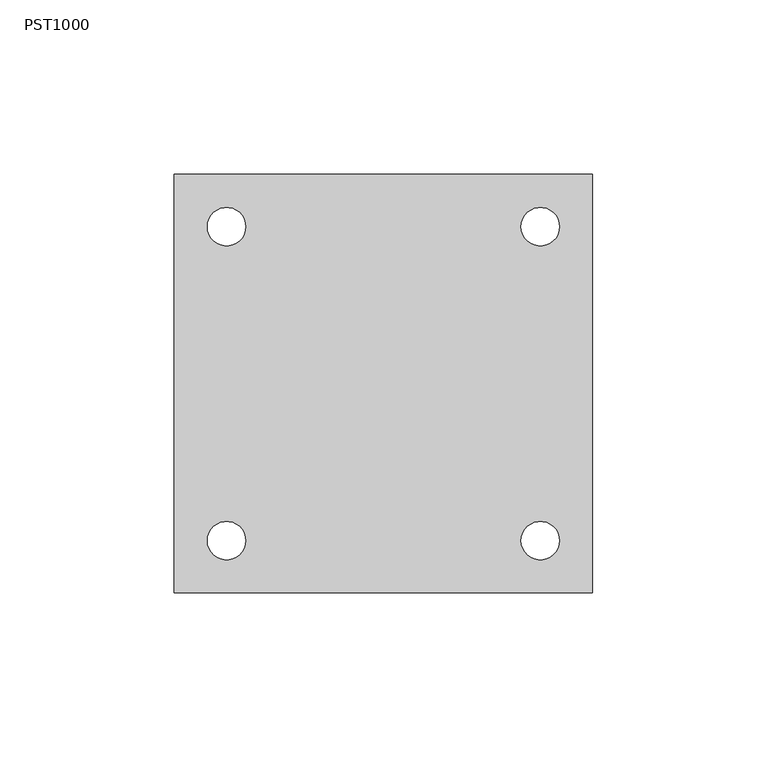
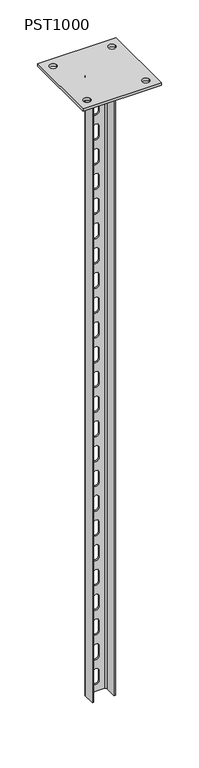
"""IFC4 building model written with IfcOpenShell, lengths in millimetres: proxy geometry, КМ Профиль_Стойка потолочная облегчённая PST : PST1000."""

from ifc_helpers import new_model, si_unit, point, frame, frame_2d, origin, place, context, project, spatial, polyline, circle_curve, trimmed, segment, composite_curve, outline, extrude, source, transform, mapped, element, save
from ifc_brep_helpers import plane_surface, cylinder_surface, revolved_surface, advanced_brep


def pst1000_420f6fb0(model_context):
    return source(origin(), model_context, "Body", "SolidModel", [
        advanced_brep(
        [(17.5, -11.5, -4.0), (17.5, 7.5, -4.0), (13.5, 11.5, -4.0), (-13.5, 11.5, -4.0), (-17.5, 7.5, -4.0), (-17.5, -11.5, -4.0), (-15.5, -11.5, -4.0), (-15.5, 7.5, -4.0), (-13.5, 9.5, -4.0), (13.5, 9.5, -4.0), (15.5, 7.5, -4.0), (15.5, -11.5, -4.0), (17.5, 7.5, -1004.0), (17.5, -11.5, -1004.0), (15.5, -11.5, -1004.0), (15.5, 7.5, -1004.0), (13.5, 9.5, -1004.0), (-13.5, 9.5, -1004.0), (-15.5, 7.5, -1004.0), (-15.5, -11.5, -1004.0), (-17.5, -11.5, -1004.0), (-17.5, 7.5, -1004.0), (-13.5, 11.5, -1004.0), (13.5, 11.5, -1004.0), (-5.0, 11.5, -53.0), (-5.0, 11.5, -68.0), (5.0, 11.5, -68.0), (5.0, 11.5, -53.0), (-5.0, 11.5, -93.0), (-5.0, 11.5, -108.0), (5.0, 11.5, -108.0), (5.0, 11.5, -93.0), (-5.0, 11.5, -133.0), (-5.0, 11.5, -148.0), (5.0, 11.5, -148.0), (5.0, 11.5, -133.0), (-5.0, 11.5, -173.0), (-5.0, 11.5, -188.0), (5.0, 11.5, -188.0), (5.0, 11.5, -173.0), (-5.0, 11.5, -213.0), (-5.0, 11.5, -228.0), (5.0, 11.5, -228.0), (5.0, 11.5, -213.0), (-5.0, 11.5, -13.0), (-5.0, 11.5, -28.0), (5.0, 11.5, -28.0), (5.0, 11.5, -13.0), (-5.0, 11.5, -253.0), (-5.0, 11.5, -268.0), (5.0, 11.5, -268.0), (5.0, 11.5, -253.0), (-5.0, 11.5, -293.0), (-5.0, 11.5, -308.0), (5.0, 11.5, -308.0), (5.0, 11.5, -293.0), (-5.0, 11.5, -333.0), (-5.0, 11.5, -348.0), (5.0, 11.5, -348.0), (5.0, 11.5, -333.0), (-5.0, 11.5, -373.0), (-5.0, 11.5, -388.0), (5.0, 11.5, -388.0), (5.0, 11.5, -373.0), (-5.0, 11.5, -413.0), (-5.0, 11.5, -428.0), (5.0, 11.5, -428.0), (5.0, 11.5, -413.0), (-5.0, 11.5, -453.0), (-5.0, 11.5, -468.0), (5.0, 11.5, -468.0), (5.0, 11.5, -453.0), (-5.0, 11.5, -493.0), (-5.0, 11.5, -508.0), (5.0, 11.5, -508.0), (5.0, 11.5, -493.0), (-5.0, 11.5, -533.0), (-5.0, 11.5, -548.0), (5.0, 11.5, -548.0), (5.0, 11.5, -533.0), (-5.0, 11.5, -573.0), (-5.0, 11.5, -588.0), (5.0, 11.5, -588.0), (5.0, 11.5, -573.0), (-5.0, 11.5, -613.0), (-5.0, 11.5, -628.0), (5.0, 11.5, -628.0), (5.0, 11.5, -613.0), (-5.0, 11.5, -653.0), (-5.0, 11.5, -668.0), (5.0, 11.5, -668.0), (5.0, 11.5, -653.0), (-5.0, 11.5, -693.0), (-5.0, 11.5, -708.0), (5.0, 11.5, -708.0), (5.0, 11.5, -693.0), (-5.0, 11.5, -733.0), (-5.0, 11.5, -748.0), (5.0, 11.5, -748.0), (5.0, 11.5, -733.0), (-5.0, 11.5, -773.0), (-5.0, 11.5, -788.0), (5.0, 11.5, -788.0), (5.0, 11.5, -773.0), (-5.0, 11.5, -813.0), (-5.0, 11.5, -828.0), (5.0, 11.5, -828.0), (5.0, 11.5, -813.0), (-5.0, 11.5, -853.0), (-5.0, 11.5, -868.0), (5.0, 11.5, -868.0), (5.0, 11.5, -853.0), (-5.0, 11.5, -893.0), (-5.0, 11.5, -908.0), (5.0, 11.5, -908.0), (5.0, 11.5, -893.0), (-5.0, 11.5, -933.0), (-5.0, 11.5, -948.0), (5.0, 11.5, -948.0), (5.0, 11.5, -933.0), (-5.0, 11.5, -973.0), (-5.0, 11.5, -988.0), (5.0, 11.5, -988.0), (5.0, 11.5, -973.0), (-5.0, 9.5, -68.0), (-5.0, 9.5, -53.0), (5.0, 9.5, -53.0), (5.0, 9.5, -68.0), (-5.0, 9.5, -108.0), (-5.0, 9.5, -93.0), (5.0, 9.5, -93.0), (5.0, 9.5, -108.0), (-5.0, 9.5, -148.0), (-5.0, 9.5, -133.0), (5.0, 9.5, -133.0), (5.0, 9.5, -148.0), (-5.0, 9.5, -188.0), (-5.0, 9.5, -173.0), (5.0, 9.5, -173.0), (5.0, 9.5, -188.0), (-5.0, 9.5, -228.0), (-5.0, 9.5, -213.0), (5.0, 9.5, -213.0), (5.0, 9.5, -228.0), (-5.0, 9.5, -28.0), (-5.0, 9.5, -13.0), (5.0, 9.5, -13.0), (5.0, 9.5, -28.0), (-5.0, 9.5, -268.0), (-5.0, 9.5, -253.0), (5.0, 9.5, -253.0), (5.0, 9.5, -268.0), (-5.0, 9.5, -308.0), (-5.0, 9.5, -293.0), (5.0, 9.5, -293.0), (5.0, 9.5, -308.0), (-5.0, 9.5, -348.0), (-5.0, 9.5, -333.0), (5.0, 9.5, -333.0), (5.0, 9.5, -348.0), (-5.0, 9.5, -388.0), (-5.0, 9.5, -373.0), (5.0, 9.5, -373.0), (5.0, 9.5, -388.0), (-5.0, 9.5, -428.0), (-5.0, 9.5, -413.0), (5.0, 9.5, -413.0), (5.0, 9.5, -428.0), (-5.0, 9.5, -468.0), (-5.0, 9.5, -453.0), (5.0, 9.5, -453.0), (5.0, 9.5, -468.0), (-5.0, 9.5, -508.0), (-5.0, 9.5, -493.0), (5.0, 9.5, -493.0), (5.0, 9.5, -508.0), (-5.0, 9.5, -548.0), (-5.0, 9.5, -533.0), (5.0, 9.5, -533.0), (5.0, 9.5, -548.0), (-5.0, 9.5, -588.0), (-5.0, 9.5, -573.0), (5.0, 9.5, -573.0), (5.0, 9.5, -588.0), (-5.0, 9.5, -628.0), (-5.0, 9.5, -613.0), (5.0, 9.5, -613.0), (5.0, 9.5, -628.0), (-5.0, 9.5, -668.0), (-5.0, 9.5, -653.0), (5.0, 9.5, -653.0), (5.0, 9.5, -668.0), (-5.0, 9.5, -708.0), (-5.0, 9.5, -693.0), (5.0, 9.5, -693.0), (5.0, 9.5, -708.0), (-5.0, 9.5, -748.0), (-5.0, 9.5, -733.0), (5.0, 9.5, -733.0), (5.0, 9.5, -748.0), (-5.0, 9.5, -788.0), (-5.0, 9.5, -773.0), (5.0, 9.5, -773.0), (5.0, 9.5, -788.0), (-5.0, 9.5, -828.0), (-5.0, 9.5, -813.0), (5.0, 9.5, -813.0), (5.0, 9.5, -828.0), (-5.0, 9.5, -868.0), (-5.0, 9.5, -853.0), (5.0, 9.5, -853.0), (5.0, 9.5, -868.0), (-5.0, 9.5, -908.0), (-5.0, 9.5, -893.0), (5.0, 9.5, -893.0), (5.0, 9.5, -908.0), (-5.0, 9.5, -948.0), (-5.0, 9.5, -933.0), (5.0, 9.5, -933.0), (5.0, 9.5, -948.0), (-5.0, 9.5, -988.0), (-5.0, 9.5, -973.0), (5.0, 9.5, -973.0), (5.0, 9.5, -988.0)],
        [
            (0, 1),
            (1, 2, circle_curve(frame((13.5, 7.5, -4.0), z_axis=(0.0, 0.0, 1.0), x_axis=(1.0, 0.0, 0.0)), 4.0)),
            (2, 3),
            (3, 4, circle_curve(frame((-13.5, 7.5, -4.0), z_axis=(0.0, 0.0, 1.0), x_axis=(1.0, 0.0, 0.0)), 4.0)),
            (4, 5),
            (5, 6),
            (6, 7),
            (7, 8, circle_curve(frame((-13.5, 7.5, -4.0), z_axis=(0.0, 0.0, -1.0), x_axis=(1.0, 0.0, 0.0)), 2.0)),
            (8, 9),
            (9, 10, circle_curve(frame((13.5, 7.5, -4.0), z_axis=(0.0, 0.0, -1.0), x_axis=(1.0, 0.0, 0.0)), 2.0)),
            (10, 11),
            (11, 0),
            (12, 13),
            (13, 14),
            (14, 15),
            (15, 16, circle_curve(frame((13.5, 7.5, -1004.0), z_axis=(0.0, 0.0, 1.0), x_axis=(1.0, 0.0, 0.0)), 2.0)),
            (16, 17),
            (17, 18, circle_curve(frame((-13.5, 7.5, -1004.0), z_axis=(0.0, 0.0, 1.0), x_axis=(1.0, 0.0, 0.0)), 2.0)),
            (18, 19),
            (19, 20),
            (20, 21),
            (21, 22, circle_curve(frame((-13.5, 7.5, -1004.0), z_axis=(0.0, 0.0, -1.0), x_axis=(1.0, 0.0, 0.0)), 4.0)),
            (22, 23),
            (23, 12, circle_curve(frame((13.5, 7.5, -1004.0), z_axis=(0.0, 0.0, -1.0), x_axis=(1.0, 0.0, 0.0)), 4.0)),
            (0, 13),
            (12, 1),
            (23, 2),
            (22, 3),
            (24, 25),
            (25, 26, circle_curve(frame((0.0, 11.5, -68.0), z_axis=(0.0, -1.0, 0.0), x_axis=(0.0, 0.0, -1.0)), 5.0)),
            (26, 27),
            (27, 24, circle_curve(frame((0.0, 11.5, -53.0), z_axis=(0.0, -1.0, 0.0), x_axis=(0.0, 0.0, -1.0)), 5.0)),
            (28, 29),
            (29, 30, circle_curve(frame((0.0, 11.5, -108.0), z_axis=(0.0, -1.0, 0.0), x_axis=(0.0, 0.0, -1.0)), 5.0)),
            (30, 31),
            (31, 28, circle_curve(frame((0.0, 11.5, -93.0), z_axis=(0.0, -1.0, 0.0), x_axis=(0.0, 0.0, -1.0)), 5.0)),
            (32, 33),
            (33, 34, circle_curve(frame((0.0, 11.5, -148.0), z_axis=(0.0, -1.0, 0.0), x_axis=(0.0, 0.0, -1.0)), 5.0)),
            (34, 35),
            (35, 32, circle_curve(frame((0.0, 11.5, -133.0), z_axis=(0.0, -1.0, 0.0), x_axis=(0.0, 0.0, -1.0)), 5.0)),
            (36, 37),
            (37, 38, circle_curve(frame((0.0, 11.5, -188.0), z_axis=(0.0, -1.0, 0.0), x_axis=(0.0, 0.0, -1.0)), 5.0)),
            (38, 39),
            (39, 36, circle_curve(frame((0.0, 11.5, -173.0), z_axis=(0.0, -1.0, 0.0), x_axis=(0.0, 0.0, -1.0)), 5.0)),
            (40, 41),
            (41, 42, circle_curve(frame((0.0, 11.5, -228.0), z_axis=(0.0, -1.0, 0.0), x_axis=(0.0, 0.0, -1.0)), 5.0)),
            (42, 43),
            (43, 40, circle_curve(frame((0.0, 11.5, -213.0), z_axis=(0.0, -1.0, 0.0), x_axis=(0.0, 0.0, -1.0)), 5.0)),
            (44, 45),
            (45, 46, circle_curve(frame((0.0, 11.5, -28.0), z_axis=(0.0, -1.0, 0.0), x_axis=(0.0, 0.0, -1.0)), 5.0)),
            (46, 47),
            (47, 44, circle_curve(frame((0.0, 11.5, -13.0), z_axis=(0.0, -1.0, 0.0), x_axis=(0.0, 0.0, -1.0)), 5.0)),
            (48, 49),
            (49, 50, circle_curve(frame((0.0, 11.5, -268.0), z_axis=(0.0, -1.0, 0.0), x_axis=(0.0, 0.0, -1.0)), 5.0)),
            (50, 51),
            (51, 48, circle_curve(frame((0.0, 11.5, -253.0), z_axis=(0.0, -1.0, 0.0), x_axis=(0.0, 0.0, -1.0)), 5.0)),
            (52, 53),
            (53, 54, circle_curve(frame((0.0, 11.5, -308.0), z_axis=(0.0, -1.0, 0.0), x_axis=(0.0, 0.0, -1.0)), 5.0)),
            (54, 55),
            (55, 52, circle_curve(frame((0.0, 11.5, -293.0), z_axis=(0.0, -1.0, 0.0), x_axis=(0.0, 0.0, -1.0)), 5.0)),
            (56, 57),
            (57, 58, circle_curve(frame((0.0, 11.5, -348.0), z_axis=(0.0, -1.0, 0.0), x_axis=(0.0, 0.0, -1.0)), 5.0)),
            (58, 59),
            (59, 56, circle_curve(frame((0.0, 11.5, -333.0), z_axis=(0.0, -1.0, 0.0), x_axis=(0.0, 0.0, -1.0)), 5.0)),
            (60, 61),
            (61, 62, circle_curve(frame((0.0, 11.5, -388.0), z_axis=(0.0, -1.0, 0.0), x_axis=(0.0, 0.0, -1.0)), 5.0)),
            (62, 63),
            (63, 60, circle_curve(frame((0.0, 11.5, -373.0), z_axis=(0.0, -1.0, 0.0), x_axis=(0.0, 0.0, -1.0)), 5.0)),
            (64, 65),
            (65, 66, circle_curve(frame((0.0, 11.5, -428.0), z_axis=(0.0, -1.0, 0.0), x_axis=(0.0, 0.0, -1.0)), 5.0)),
            (66, 67),
            (67, 64, circle_curve(frame((0.0, 11.5, -413.0), z_axis=(0.0, -1.0, 0.0), x_axis=(0.0, 0.0, -1.0)), 5.0)),
            (68, 69),
            (69, 70, circle_curve(frame((0.0, 11.5, -468.0), z_axis=(0.0, -1.0, 0.0), x_axis=(0.0, 0.0, -1.0)), 5.0)),
            (70, 71),
            (71, 68, circle_curve(frame((0.0, 11.5, -453.0), z_axis=(0.0, -1.0, 0.0), x_axis=(0.0, 0.0, -1.0)), 5.0)),
            (72, 73),
            (73, 74, circle_curve(frame((0.0, 11.5, -508.0), z_axis=(0.0, -1.0, 0.0), x_axis=(0.0, 0.0, -1.0)), 5.0)),
            (74, 75),
            (75, 72, circle_curve(frame((0.0, 11.5, -493.0), z_axis=(0.0, -1.0, 0.0), x_axis=(0.0, 0.0, -1.0)), 5.0)),
            (76, 77),
            (77, 78, circle_curve(frame((0.0, 11.5, -548.0), z_axis=(0.0, -1.0, 0.0), x_axis=(0.0, 0.0, -1.0)), 5.0)),
            (78, 79),
            (79, 76, circle_curve(frame((0.0, 11.5, -533.0), z_axis=(0.0, -1.0, 0.0), x_axis=(0.0, 0.0, -1.0)), 5.0)),
            (80, 81),
            (81, 82, circle_curve(frame((0.0, 11.5, -588.0), z_axis=(0.0, -1.0, 0.0), x_axis=(0.0, 0.0, -1.0)), 5.0)),
            (82, 83),
            (83, 80, circle_curve(frame((0.0, 11.5, -573.0), z_axis=(0.0, -1.0, 0.0), x_axis=(0.0, 0.0, -1.0)), 5.0)),
            (84, 85),
            (85, 86, circle_curve(frame((0.0, 11.5, -628.0), z_axis=(0.0, -1.0, 0.0), x_axis=(0.0, 0.0, -1.0)), 5.0)),
            (86, 87),
            (87, 84, circle_curve(frame((0.0, 11.5, -613.0), z_axis=(0.0, -1.0, 0.0), x_axis=(0.0, 0.0, -1.0)), 5.0)),
            (88, 89),
            (89, 90, circle_curve(frame((0.0, 11.5, -668.0), z_axis=(0.0, -1.0, 0.0), x_axis=(0.0, 0.0, -1.0)), 5.0)),
            (90, 91),
            (91, 88, circle_curve(frame((0.0, 11.5, -653.0), z_axis=(0.0, -1.0, 0.0), x_axis=(0.0, 0.0, -1.0)), 5.0)),
            (92, 93),
            (93, 94, circle_curve(frame((0.0, 11.5, -708.0), z_axis=(0.0, -1.0, 0.0), x_axis=(0.0, 0.0, -1.0)), 5.0)),
            (94, 95),
            (95, 92, circle_curve(frame((0.0, 11.5, -693.0), z_axis=(0.0, -1.0, 0.0), x_axis=(0.0, 0.0, -1.0)), 5.0)),
            (96, 97),
            (97, 98, circle_curve(frame((0.0, 11.5, -748.0), z_axis=(0.0, -1.0, 0.0), x_axis=(0.0, 0.0, -1.0)), 5.0)),
            (98, 99),
            (99, 96, circle_curve(frame((0.0, 11.5, -733.0), z_axis=(0.0, -1.0, 0.0), x_axis=(0.0, 0.0, -1.0)), 5.0)),
            (100, 101),
            (101, 102, circle_curve(frame((0.0, 11.5, -788.0), z_axis=(0.0, -1.0, 0.0), x_axis=(0.0, 0.0, -1.0)), 5.0)),
            (102, 103),
            (103, 100, circle_curve(frame((0.0, 11.5, -773.0), z_axis=(0.0, -1.0, 0.0), x_axis=(0.0, 0.0, -1.0)), 5.0)),
            (104, 105),
            (105, 106, circle_curve(frame((0.0, 11.5, -828.0), z_axis=(0.0, -1.0, 0.0), x_axis=(0.0, 0.0, -1.0)), 5.0)),
            (106, 107),
            (107, 104, circle_curve(frame((0.0, 11.5, -813.0), z_axis=(0.0, -1.0, 0.0), x_axis=(0.0, 0.0, -1.0)), 5.0)),
            (108, 109),
            (109, 110, circle_curve(frame((0.0, 11.5, -868.0), z_axis=(0.0, -1.0, 0.0), x_axis=(0.0, 0.0, -1.0)), 5.0)),
            (110, 111),
            (111, 108, circle_curve(frame((0.0, 11.5, -853.0), z_axis=(0.0, -1.0, 0.0), x_axis=(0.0, 0.0, -1.0)), 5.0)),
            (112, 113),
            (113, 114, circle_curve(frame((0.0, 11.5, -908.0), z_axis=(0.0, -1.0, 0.0), x_axis=(0.0, 0.0, -1.0)), 5.0)),
            (114, 115),
            (115, 112, circle_curve(frame((0.0, 11.5, -893.0), z_axis=(0.0, -1.0, 0.0), x_axis=(0.0, 0.0, -1.0)), 5.0)),
            (116, 117),
            (117, 118, circle_curve(frame((0.0, 11.5, -948.0), z_axis=(0.0, -1.0, 0.0), x_axis=(0.0, 0.0, -1.0)), 5.0)),
            (118, 119),
            (119, 116, circle_curve(frame((0.0, 11.5, -933.0), z_axis=(0.0, -1.0, 0.0), x_axis=(0.0, 0.0, -1.0)), 5.0)),
            (120, 121),
            (121, 122, circle_curve(frame((0.0, 11.5, -988.0), z_axis=(0.0, -1.0, 0.0), x_axis=(0.0, 0.0, -1.0)), 5.0)),
            (122, 123),
            (123, 120, circle_curve(frame((0.0, 11.5, -973.0), z_axis=(0.0, -1.0, 0.0), x_axis=(0.0, 0.0, -1.0)), 5.0)),
            (21, 4),
            (20, 5),
            (19, 6),
            (18, 7),
            (17, 8),
            (16, 9),
            (124, 125),
            (125, 126, circle_curve(frame((0.0, 9.5, -53.0), z_axis=(0.0, 1.0, 0.0), x_axis=(0.0, 0.0, -1.0)), 5.0)),
            (126, 127),
            (127, 124, circle_curve(frame((0.0, 9.5, -68.0), z_axis=(0.0, 1.0, 0.0), x_axis=(0.0, 0.0, -1.0)), 5.0)),
            (128, 129),
            (129, 130, circle_curve(frame((0.0, 9.5, -93.0), z_axis=(0.0, 1.0, 0.0), x_axis=(0.0, 0.0, -1.0)), 5.0)),
            (130, 131),
            (131, 128, circle_curve(frame((0.0, 9.5, -108.0), z_axis=(0.0, 1.0, 0.0), x_axis=(0.0, 0.0, -1.0)), 5.0)),
            (132, 133),
            (133, 134, circle_curve(frame((0.0, 9.5, -133.0), z_axis=(0.0, 1.0, 0.0), x_axis=(0.0, 0.0, -1.0)), 5.0)),
            (134, 135),
            (135, 132, circle_curve(frame((0.0, 9.5, -148.0), z_axis=(0.0, 1.0, 0.0), x_axis=(0.0, 0.0, -1.0)), 5.0)),
            (136, 137),
            (137, 138, circle_curve(frame((0.0, 9.5, -173.0), z_axis=(0.0, 1.0, 0.0), x_axis=(0.0, 0.0, -1.0)), 5.0)),
            (138, 139),
            (139, 136, circle_curve(frame((0.0, 9.5, -188.0), z_axis=(0.0, 1.0, 0.0), x_axis=(0.0, 0.0, -1.0)), 5.0)),
            (140, 141),
            (141, 142, circle_curve(frame((0.0, 9.5, -213.0), z_axis=(0.0, 1.0, 0.0), x_axis=(0.0, 0.0, -1.0)), 5.0)),
            (142, 143),
            (143, 140, circle_curve(frame((0.0, 9.5, -228.0), z_axis=(0.0, 1.0, 0.0), x_axis=(0.0, 0.0, -1.0)), 5.0)),
            (144, 145),
            (145, 146, circle_curve(frame((0.0, 9.5, -13.0), z_axis=(0.0, 1.0, 0.0), x_axis=(0.0, 0.0, -1.0)), 5.0)),
            (146, 147),
            (147, 144, circle_curve(frame((0.0, 9.5, -28.0), z_axis=(0.0, 1.0, 0.0), x_axis=(0.0, 0.0, -1.0)), 5.0)),
            (148, 149),
            (149, 150, circle_curve(frame((0.0, 9.5, -253.0), z_axis=(0.0, 1.0, 0.0), x_axis=(0.0, 0.0, -1.0)), 5.0)),
            (150, 151),
            (151, 148, circle_curve(frame((0.0, 9.5, -268.0), z_axis=(0.0, 1.0, 0.0), x_axis=(0.0, 0.0, -1.0)), 5.0)),
            (152, 153),
            (153, 154, circle_curve(frame((0.0, 9.5, -293.0), z_axis=(0.0, 1.0, 0.0), x_axis=(0.0, 0.0, -1.0)), 5.0)),
            (154, 155),
            (155, 152, circle_curve(frame((0.0, 9.5, -308.0), z_axis=(0.0, 1.0, 0.0), x_axis=(0.0, 0.0, -1.0)), 5.0)),
            (156, 157),
            (157, 158, circle_curve(frame((0.0, 9.5, -333.0), z_axis=(0.0, 1.0, 0.0), x_axis=(0.0, 0.0, -1.0)), 5.0)),
            (158, 159),
            (159, 156, circle_curve(frame((0.0, 9.5, -348.0), z_axis=(0.0, 1.0, 0.0), x_axis=(0.0, 0.0, -1.0)), 5.0)),
            (160, 161),
            (161, 162, circle_curve(frame((0.0, 9.5, -373.0), z_axis=(0.0, 1.0, 0.0), x_axis=(0.0, 0.0, -1.0)), 5.0)),
            (162, 163),
            (163, 160, circle_curve(frame((0.0, 9.5, -388.0), z_axis=(0.0, 1.0, 0.0), x_axis=(0.0, 0.0, -1.0)), 5.0)),
            (164, 165),
            (165, 166, circle_curve(frame((0.0, 9.5, -413.0), z_axis=(0.0, 1.0, 0.0), x_axis=(0.0, 0.0, -1.0)), 5.0)),
            (166, 167),
            (167, 164, circle_curve(frame((0.0, 9.5, -428.0), z_axis=(0.0, 1.0, 0.0), x_axis=(0.0, 0.0, -1.0)), 5.0)),
            (168, 169),
            (169, 170, circle_curve(frame((0.0, 9.5, -453.0), z_axis=(0.0, 1.0, 0.0), x_axis=(0.0, 0.0, -1.0)), 5.0)),
            (170, 171),
            (171, 168, circle_curve(frame((0.0, 9.5, -468.0), z_axis=(0.0, 1.0, 0.0), x_axis=(0.0, 0.0, -1.0)), 5.0)),
            (172, 173),
            (173, 174, circle_curve(frame((0.0, 9.5, -493.0), z_axis=(0.0, 1.0, 0.0), x_axis=(0.0, 0.0, -1.0)), 5.0)),
            (174, 175),
            (175, 172, circle_curve(frame((0.0, 9.5, -508.0), z_axis=(0.0, 1.0, 0.0), x_axis=(0.0, 0.0, -1.0)), 5.0)),
            (176, 177),
            (177, 178, circle_curve(frame((0.0, 9.5, -533.0), z_axis=(0.0, 1.0, 0.0), x_axis=(0.0, 0.0, -1.0)), 5.0)),
            (178, 179),
            (179, 176, circle_curve(frame((0.0, 9.5, -548.0), z_axis=(0.0, 1.0, 0.0), x_axis=(0.0, 0.0, -1.0)), 5.0)),
            (180, 181),
            (181, 182, circle_curve(frame((0.0, 9.5, -573.0), z_axis=(0.0, 1.0, 0.0), x_axis=(0.0, 0.0, -1.0)), 5.0)),
            (182, 183),
            (183, 180, circle_curve(frame((0.0, 9.5, -588.0), z_axis=(0.0, 1.0, 0.0), x_axis=(0.0, 0.0, -1.0)), 5.0)),
            (184, 185),
            (185, 186, circle_curve(frame((0.0, 9.5, -613.0), z_axis=(0.0, 1.0, 0.0), x_axis=(0.0, 0.0, -1.0)), 5.0)),
            (186, 187),
            (187, 184, circle_curve(frame((0.0, 9.5, -628.0), z_axis=(0.0, 1.0, 0.0), x_axis=(0.0, 0.0, -1.0)), 5.0)),
            (188, 189),
            (189, 190, circle_curve(frame((0.0, 9.5, -653.0), z_axis=(0.0, 1.0, 0.0), x_axis=(0.0, 0.0, -1.0)), 5.0)),
            (190, 191),
            (191, 188, circle_curve(frame((0.0, 9.5, -668.0), z_axis=(0.0, 1.0, 0.0), x_axis=(0.0, 0.0, -1.0)), 5.0)),
            (192, 193),
            (193, 194, circle_curve(frame((0.0, 9.5, -693.0), z_axis=(0.0, 1.0, 0.0), x_axis=(0.0, 0.0, -1.0)), 5.0)),
            (194, 195),
            (195, 192, circle_curve(frame((0.0, 9.5, -708.0), z_axis=(0.0, 1.0, 0.0), x_axis=(0.0, 0.0, -1.0)), 5.0)),
            (196, 197),
            (197, 198, circle_curve(frame((0.0, 9.5, -733.0), z_axis=(0.0, 1.0, 0.0), x_axis=(0.0, 0.0, -1.0)), 5.0)),
            (198, 199),
            (199, 196, circle_curve(frame((0.0, 9.5, -748.0), z_axis=(0.0, 1.0, 0.0), x_axis=(0.0, 0.0, -1.0)), 5.0)),
            (200, 201),
            (201, 202, circle_curve(frame((0.0, 9.5, -773.0), z_axis=(0.0, 1.0, 0.0), x_axis=(0.0, 0.0, -1.0)), 5.0)),
            (202, 203),
            (203, 200, circle_curve(frame((0.0, 9.5, -788.0), z_axis=(0.0, 1.0, 0.0), x_axis=(0.0, 0.0, -1.0)), 5.0)),
            (204, 205),
            (205, 206, circle_curve(frame((0.0, 9.5, -813.0), z_axis=(0.0, 1.0, 0.0), x_axis=(0.0, 0.0, -1.0)), 5.0)),
            (206, 207),
            (207, 204, circle_curve(frame((0.0, 9.5, -828.0), z_axis=(0.0, 1.0, 0.0), x_axis=(0.0, 0.0, -1.0)), 5.0)),
            (208, 209),
            (209, 210, circle_curve(frame((0.0, 9.5, -853.0), z_axis=(0.0, 1.0, 0.0), x_axis=(0.0, 0.0, -1.0)), 5.0)),
            (210, 211),
            (211, 208, circle_curve(frame((0.0, 9.5, -868.0), z_axis=(0.0, 1.0, 0.0), x_axis=(0.0, 0.0, -1.0)), 5.0)),
            (212, 213),
            (213, 214, circle_curve(frame((0.0, 9.5, -893.0), z_axis=(0.0, 1.0, 0.0), x_axis=(0.0, 0.0, -1.0)), 5.0)),
            (214, 215),
            (215, 212, circle_curve(frame((0.0, 9.5, -908.0), z_axis=(0.0, 1.0, 0.0), x_axis=(0.0, 0.0, -1.0)), 5.0)),
            (216, 217),
            (217, 218, circle_curve(frame((0.0, 9.5, -933.0), z_axis=(0.0, 1.0, 0.0), x_axis=(0.0, 0.0, -1.0)), 5.0)),
            (218, 219),
            (219, 216, circle_curve(frame((0.0, 9.5, -948.0), z_axis=(0.0, 1.0, 0.0), x_axis=(0.0, 0.0, -1.0)), 5.0)),
            (220, 221),
            (221, 222, circle_curve(frame((0.0, 9.5, -973.0), z_axis=(0.0, 1.0, 0.0), x_axis=(0.0, 0.0, -1.0)), 5.0)),
            (222, 223),
            (223, 220, circle_curve(frame((0.0, 9.5, -988.0), z_axis=(0.0, 1.0, 0.0), x_axis=(0.0, 0.0, -1.0)), 5.0)),
            (15, 10),
            (14, 11),
            (24, 125),
            (124, 25),
            (27, 126),
            (26, 127),
            (28, 129),
            (128, 29),
            (31, 130),
            (30, 131),
            (32, 133),
            (132, 33),
            (35, 134),
            (34, 135),
            (36, 137),
            (136, 37),
            (39, 138),
            (38, 139),
            (40, 141),
            (140, 41),
            (43, 142),
            (42, 143),
            (44, 145),
            (144, 45),
            (47, 146),
            (46, 147),
            (48, 149),
            (148, 49),
            (51, 150),
            (50, 151),
            (52, 153),
            (152, 53),
            (55, 154),
            (54, 155),
            (56, 157),
            (156, 57),
            (59, 158),
            (58, 159),
            (60, 161),
            (160, 61),
            (63, 162),
            (62, 163),
            (64, 165),
            (164, 65),
            (67, 166),
            (66, 167),
            (68, 169),
            (168, 69),
            (71, 170),
            (70, 171),
            (72, 173),
            (172, 73),
            (75, 174),
            (74, 175),
            (76, 177),
            (176, 77),
            (79, 178),
            (78, 179),
            (80, 181),
            (180, 81),
            (83, 182),
            (82, 183),
            (84, 185),
            (184, 85),
            (87, 186),
            (86, 187),
            (88, 189),
            (188, 89),
            (91, 190),
            (90, 191),
            (92, 193),
            (192, 93),
            (95, 194),
            (94, 195),
            (96, 197),
            (196, 97),
            (99, 198),
            (98, 199),
            (100, 201),
            (200, 101),
            (103, 202),
            (102, 203),
            (104, 205),
            (204, 105),
            (107, 206),
            (106, 207),
            (108, 209),
            (208, 109),
            (111, 210),
            (110, 211),
            (112, 213),
            (212, 113),
            (115, 214),
            (114, 215),
            (116, 217),
            (216, 117),
            (119, 218),
            (118, 219),
            (120, 221),
            (220, 121),
            (123, 222),
            (122, 223),
        ],
        [
            plane_surface(frame((17.5, 70.8587358, -4.0), z_axis=(0.0, 0.0, 1.0), x_axis=(0.0, 1.0, 0.0))),
            plane_surface(frame((17.5, 70.8587358, -1004.0), z_axis=(0.0, 0.0, -1.0), x_axis=(0.0, -1.0, 0.0))),
            plane_surface(frame((17.5, -11.5, -4.0), z_axis=(1.0, 0.0, 0.0), x_axis=(0.0, 0.0, -1.0))),
            cylinder_surface(frame((13.5, 7.5, -1004.0), z_axis=(0.0, 0.0, 1.0), x_axis=(1.0, 0.0, 0.0)), 4.0),
            plane_surface(frame((13.5, 11.5, -4.0), z_axis=(0.0, 1.0, 0.0), x_axis=(0.0, 0.0, -1.0))),
            cylinder_surface(frame((-13.5, 7.5, -1004.0), z_axis=(0.0, 0.0, 1.0), x_axis=(1.0, 0.0, 0.0)), 4.0),
            plane_surface(frame((-17.5, 7.5, -4.0), z_axis=(-1.0, 0.0, 0.0), x_axis=(0.0, 0.0, -1.0))),
            plane_surface(frame((-17.5, -11.5, -4.0), z_axis=(0.0, -1.0, 0.0), x_axis=(0.0, 0.0, -1.0))),
            plane_surface(frame((-15.5, -11.5, -4.0), z_axis=(1.0, 0.0, 0.0), x_axis=(0.0, 0.0, -1.0))),
            revolved_surface(polyline([(-11.5, 7.5, -1004.0), (-11.5, 7.5, -4.0)]), (-13.5, 7.5, -1004.0), (0.0, 0.0, -1.0)),
            plane_surface(frame((-13.5, 9.5, -4.0), z_axis=(0.0, -1.0, 0.0), x_axis=(0.0, 0.0, -1.0))),
            revolved_surface(polyline([(15.5, 7.5, -1004.0), (15.5, 7.5, -4.0)]), (13.5, 7.5, -1004.0), (0.0, 0.0, -1.0)),
            plane_surface(frame((15.5, 7.5, -4.0), z_axis=(-1.0, 0.0, 0.0), x_axis=(0.0, 0.0, -1.0))),
            plane_surface(frame((15.5, -11.5, -4.0), z_axis=(0.0, -1.0, 0.0), x_axis=(0.0, 0.0, -1.0))),
            plane_surface(frame((-5.0, 11.5, -68.0), z_axis=(1.0, 0.0, 0.0), x_axis=(0.0, -1.0, 0.0))),
            revolved_surface(polyline([(0.0, 11.5, -58.0), (0.0, 9.5, -58.0)]), (0.0, 9.5, -53.0), (0.0, 1.0, 0.0)),
            plane_surface(frame((5.0, 11.5, -53.0), z_axis=(-1.0, 0.0, 0.0), x_axis=(0.0, -1.0, 0.0))),
            revolved_surface(polyline([(0.0, 11.5, -73.0), (0.0, 9.5, -73.0)]), (0.0, 9.5, -68.0), (0.0, 1.0, 0.0)),
            plane_surface(frame((-5.0, 11.5, -108.0), z_axis=(1.0, 0.0, 0.0), x_axis=(0.0, -1.0, 0.0))),
            revolved_surface(polyline([(0.0, 11.5, -98.0), (0.0, 9.5, -98.0)]), (0.0, 9.5, -93.0), (0.0, 1.0, 0.0)),
            plane_surface(frame((5.0, 11.5, -93.0), z_axis=(-1.0, 0.0, 0.0), x_axis=(0.0, -1.0, 0.0))),
            revolved_surface(polyline([(0.0, 11.5, -113.0), (0.0, 9.5, -113.0)]), (0.0, 9.5, -108.0), (0.0, 1.0, 0.0)),
            plane_surface(frame((-5.0, 11.5, -148.0), z_axis=(1.0, 0.0, 0.0), x_axis=(0.0, -1.0, 0.0))),
            revolved_surface(polyline([(0.0, 11.5, -138.0), (0.0, 9.5, -138.0)]), (0.0, 9.5, -133.0), (0.0, 1.0, 0.0)),
            plane_surface(frame((5.0, 11.5, -133.0), z_axis=(-1.0, 0.0, 0.0), x_axis=(0.0, -1.0, 0.0))),
            revolved_surface(polyline([(0.0, 11.5, -153.0), (0.0, 9.5, -153.0)]), (0.0, 9.5, -148.0), (0.0, 1.0, 0.0)),
            plane_surface(frame((-5.0, 11.5, -188.0), z_axis=(1.0, 0.0, 0.0), x_axis=(0.0, -1.0, 0.0))),
            revolved_surface(polyline([(0.0, 11.5, -178.0), (0.0, 9.5, -178.0)]), (0.0, 9.5, -173.0), (0.0, 1.0, 0.0)),
            plane_surface(frame((5.0, 11.5, -173.0), z_axis=(-1.0, 0.0, 0.0), x_axis=(0.0, -1.0, 0.0))),
            revolved_surface(polyline([(0.0, 11.5, -193.0), (0.0, 9.5, -193.0)]), (0.0, 9.5, -188.0), (0.0, 1.0, 0.0)),
            plane_surface(frame((-5.0, 11.5, -228.0), z_axis=(1.0, 0.0, 0.0), x_axis=(0.0, -1.0, 0.0))),
            revolved_surface(polyline([(0.0, 11.5, -218.0), (0.0, 9.5, -218.0)]), (0.0, 9.5, -213.0), (0.0, 1.0, 0.0)),
            plane_surface(frame((5.0, 11.5, -213.0), z_axis=(-1.0, 0.0, 0.0), x_axis=(0.0, -1.0, 0.0))),
            revolved_surface(polyline([(0.0, 11.5, -233.0), (0.0, 9.5, -233.0)]), (0.0, 9.5, -228.0), (0.0, 1.0, 0.0)),
            plane_surface(frame((-5.0, 11.5, -28.0), z_axis=(1.0, 0.0, 0.0), x_axis=(0.0, -1.0, 0.0))),
            revolved_surface(polyline([(0.0, 11.5, -18.0), (0.0, 9.5, -18.0)]), (0.0, 9.5, -13.0), (0.0, 1.0, 0.0)),
            plane_surface(frame((5.0, 11.5, -13.0), z_axis=(-1.0, 0.0, 0.0), x_axis=(0.0, -1.0, 0.0))),
            revolved_surface(polyline([(0.0, 11.5, -33.0), (0.0, 9.5, -33.0)]), (0.0, 9.5, -28.0), (0.0, 1.0, 0.0)),
            plane_surface(frame((-5.0, 11.5, -268.0), z_axis=(1.0, 0.0, 0.0), x_axis=(0.0, -1.0, 0.0))),
            revolved_surface(polyline([(0.0, 11.5, -258.0), (0.0, 9.5, -258.0)]), (0.0, 9.5, -253.0), (0.0, 1.0, 0.0)),
            plane_surface(frame((5.0, 11.5, -253.0), z_axis=(-1.0, 0.0, 0.0), x_axis=(0.0, -1.0, 0.0))),
            revolved_surface(polyline([(0.0, 11.5, -273.0), (0.0, 9.5, -273.0)]), (0.0, 9.5, -268.0), (0.0, 1.0, 0.0)),
            plane_surface(frame((-5.0, 11.5, -308.0), z_axis=(1.0, 0.0, 0.0), x_axis=(0.0, -1.0, 0.0))),
            revolved_surface(polyline([(0.0, 11.5, -298.0), (0.0, 9.5, -298.0)]), (0.0, 9.5, -293.0), (0.0, 1.0, 0.0)),
            plane_surface(frame((5.0, 11.5, -293.0), z_axis=(-1.0, 0.0, 0.0), x_axis=(0.0, -1.0, 0.0))),
            revolved_surface(polyline([(0.0, 11.5, -313.0), (0.0, 9.5, -313.0)]), (0.0, 9.5, -308.0), (0.0, 1.0, 0.0)),
            plane_surface(frame((-5.0, 11.5, -348.0), z_axis=(1.0, 0.0, 0.0), x_axis=(0.0, -1.0, 0.0))),
            revolved_surface(polyline([(0.0, 11.5, -338.0), (0.0, 9.5, -338.0)]), (0.0, 9.5, -333.0), (0.0, 1.0, 0.0)),
            plane_surface(frame((5.0, 11.5, -333.0), z_axis=(-1.0, 0.0, 0.0), x_axis=(0.0, -1.0, 0.0))),
            revolved_surface(polyline([(0.0, 11.5, -353.0), (0.0, 9.5, -353.0)]), (0.0, 9.5, -348.0), (0.0, 1.0, 0.0)),
            plane_surface(frame((-5.0, 11.5, -388.0), z_axis=(1.0, 0.0, 0.0), x_axis=(0.0, -1.0, 0.0))),
            revolved_surface(polyline([(0.0, 11.5, -378.0), (0.0, 9.5, -378.0)]), (0.0, 9.5, -373.0), (0.0, 1.0, 0.0)),
            plane_surface(frame((5.0, 11.5, -373.0), z_axis=(-1.0, 0.0, 0.0), x_axis=(0.0, -1.0, 0.0))),
            revolved_surface(polyline([(0.0, 11.5, -393.0), (0.0, 9.5, -393.0)]), (0.0, 9.5, -388.0), (0.0, 1.0, 0.0)),
            plane_surface(frame((-5.0, 11.5, -428.0), z_axis=(1.0, 0.0, 0.0), x_axis=(0.0, -1.0, 0.0))),
            revolved_surface(polyline([(0.0, 11.5, -418.0), (0.0, 9.5, -418.0)]), (0.0, 9.5, -413.0), (0.0, 1.0, 0.0)),
            plane_surface(frame((5.0, 11.5, -413.0), z_axis=(-1.0, 0.0, 0.0), x_axis=(0.0, -1.0, 0.0))),
            revolved_surface(polyline([(0.0, 11.5, -433.0), (0.0, 9.5, -433.0)]), (0.0, 9.5, -428.0), (0.0, 1.0, 0.0)),
            plane_surface(frame((-5.0, 11.5, -468.0), z_axis=(1.0, 0.0, 0.0), x_axis=(0.0, -1.0, 0.0))),
            revolved_surface(polyline([(0.0, 11.5, -458.0), (0.0, 9.5, -458.0)]), (0.0, 9.5, -453.0), (0.0, 1.0, 0.0)),
            plane_surface(frame((5.0, 11.5, -453.0), z_axis=(-1.0, 0.0, 0.0), x_axis=(0.0, -1.0, 0.0))),
            revolved_surface(polyline([(0.0, 11.5, -473.0), (0.0, 9.5, -473.0)]), (0.0, 9.5, -468.0), (0.0, 1.0, 0.0)),
            plane_surface(frame((-5.0, 11.5, -508.0), z_axis=(1.0, 0.0, 0.0), x_axis=(0.0, -1.0, 0.0))),
            revolved_surface(polyline([(0.0, 11.5, -498.0), (0.0, 9.5, -498.0)]), (0.0, 9.5, -493.0), (0.0, 1.0, 0.0)),
            plane_surface(frame((5.0, 11.5, -493.0), z_axis=(-1.0, 0.0, 0.0), x_axis=(0.0, -1.0, 0.0))),
            revolved_surface(polyline([(0.0, 11.5, -513.0), (0.0, 9.5, -513.0)]), (0.0, 9.5, -508.0), (0.0, 1.0, 0.0)),
            plane_surface(frame((-5.0, 11.5, -548.0), z_axis=(1.0, 0.0, 0.0), x_axis=(0.0, -1.0, 0.0))),
            revolved_surface(polyline([(0.0, 11.5, -538.0), (0.0, 9.5, -538.0)]), (0.0, 9.5, -533.0), (0.0, 1.0, 0.0)),
            plane_surface(frame((5.0, 11.5, -533.0), z_axis=(-1.0, 0.0, 0.0), x_axis=(0.0, -1.0, 0.0))),
            revolved_surface(polyline([(0.0, 11.5, -553.0), (0.0, 9.5, -553.0)]), (0.0, 9.5, -548.0), (0.0, 1.0, 0.0)),
            plane_surface(frame((-5.0, 11.5, -588.0), z_axis=(1.0, 0.0, 0.0), x_axis=(0.0, -1.0, 0.0))),
            revolved_surface(polyline([(0.0, 11.5, -578.0), (0.0, 9.5, -578.0)]), (0.0, 9.5, -573.0), (0.0, 1.0, 0.0)),
            plane_surface(frame((5.0, 11.5, -573.0), z_axis=(-1.0, 0.0, 0.0), x_axis=(0.0, -1.0, 0.0))),
            revolved_surface(polyline([(0.0, 11.5, -593.0), (0.0, 9.5, -593.0)]), (0.0, 9.5, -588.0), (0.0, 1.0, 0.0)),
            plane_surface(frame((-5.0, 11.5, -628.0), z_axis=(1.0, 0.0, 0.0), x_axis=(0.0, -1.0, 0.0))),
            revolved_surface(polyline([(0.0, 11.5, -618.0), (0.0, 9.5, -618.0)]), (0.0, 9.5, -613.0), (0.0, 1.0, 0.0)),
            plane_surface(frame((5.0, 11.5, -613.0), z_axis=(-1.0, 0.0, 0.0), x_axis=(0.0, -1.0, 0.0))),
            revolved_surface(polyline([(0.0, 11.5, -633.0), (0.0, 9.5, -633.0)]), (0.0, 9.5, -628.0), (0.0, 1.0, 0.0)),
            plane_surface(frame((-5.0, 11.5, -668.0), z_axis=(1.0, 0.0, 0.0), x_axis=(0.0, -1.0, 0.0))),
            revolved_surface(polyline([(0.0, 11.5, -658.0), (0.0, 9.5, -658.0)]), (0.0, 9.5, -653.0), (0.0, 1.0, 0.0)),
            plane_surface(frame((5.0, 11.5, -653.0), z_axis=(-1.0, 0.0, 0.0), x_axis=(0.0, -1.0, 0.0))),
            revolved_surface(polyline([(0.0, 11.5, -673.0), (0.0, 9.5, -673.0)]), (0.0, 9.5, -668.0), (0.0, 1.0, 0.0)),
            plane_surface(frame((-5.0, 11.5, -708.0), z_axis=(1.0, 0.0, 0.0), x_axis=(0.0, -1.0, 0.0))),
            revolved_surface(polyline([(0.0, 11.5, -698.0), (0.0, 9.5, -698.0)]), (0.0, 9.5, -693.0), (0.0, 1.0, 0.0)),
            plane_surface(frame((5.0, 11.5, -693.0), z_axis=(-1.0, 0.0, 0.0), x_axis=(0.0, -1.0, 0.0))),
            revolved_surface(polyline([(0.0, 11.5, -713.0), (0.0, 9.5, -713.0)]), (0.0, 9.5, -708.0), (0.0, 1.0, 0.0)),
            plane_surface(frame((-5.0, 11.5, -748.0), z_axis=(1.0, 0.0, 0.0), x_axis=(0.0, -1.0, 0.0))),
            revolved_surface(polyline([(0.0, 11.5, -738.0), (0.0, 9.5, -738.0)]), (0.0, 9.5, -733.0), (0.0, 1.0, 0.0)),
            plane_surface(frame((5.0, 11.5, -733.0), z_axis=(-1.0, 0.0, 0.0), x_axis=(0.0, -1.0, 0.0))),
            revolved_surface(polyline([(0.0, 11.5, -753.0), (0.0, 9.5, -753.0)]), (0.0, 9.5, -748.0), (0.0, 1.0, 0.0)),
            plane_surface(frame((-5.0, 11.5, -788.0), z_axis=(1.0, 0.0, 0.0), x_axis=(0.0, -1.0, 0.0))),
            revolved_surface(polyline([(0.0, 11.5, -778.0), (0.0, 9.5, -778.0)]), (0.0, 9.5, -773.0), (0.0, 1.0, 0.0)),
            plane_surface(frame((5.0, 11.5, -773.0), z_axis=(-1.0, 0.0, 0.0), x_axis=(0.0, -1.0, 0.0))),
            revolved_surface(polyline([(0.0, 11.5, -793.0), (0.0, 9.5, -793.0)]), (0.0, 9.5, -788.0), (0.0, 1.0, 0.0)),
            plane_surface(frame((-5.0, 11.5, -828.0), z_axis=(1.0, 0.0, 0.0), x_axis=(0.0, -1.0, 0.0))),
            revolved_surface(polyline([(0.0, 11.5, -818.0), (0.0, 9.5, -818.0)]), (0.0, 9.5, -813.0), (0.0, 1.0, 0.0)),
            plane_surface(frame((5.0, 11.5, -813.0), z_axis=(-1.0, 0.0, 0.0), x_axis=(0.0, -1.0, 0.0))),
            revolved_surface(polyline([(0.0, 11.5, -833.0), (0.0, 9.5, -833.0)]), (0.0, 9.5, -828.0), (0.0, 1.0, 0.0)),
            plane_surface(frame((-5.0, 11.5, -868.0), z_axis=(1.0, 0.0, 0.0), x_axis=(0.0, -1.0, 0.0))),
            revolved_surface(polyline([(0.0, 11.5, -858.0), (0.0, 9.5, -858.0)]), (0.0, 9.5, -853.0), (0.0, 1.0, 0.0)),
            plane_surface(frame((5.0, 11.5, -853.0), z_axis=(-1.0, 0.0, 0.0), x_axis=(0.0, -1.0, 0.0))),
            revolved_surface(polyline([(0.0, 11.5, -873.0), (0.0, 9.5, -873.0)]), (0.0, 9.5, -868.0), (0.0, 1.0, 0.0)),
            plane_surface(frame((-5.0, 11.5, -908.0), z_axis=(1.0, 0.0, 0.0), x_axis=(0.0, -1.0, 0.0))),
            revolved_surface(polyline([(0.0, 11.5, -898.0), (0.0, 9.5, -898.0)]), (0.0, 9.5, -893.0), (0.0, 1.0, 0.0)),
            plane_surface(frame((5.0, 11.5, -893.0), z_axis=(-1.0, 0.0, 0.0), x_axis=(0.0, -1.0, 0.0))),
            revolved_surface(polyline([(0.0, 11.5, -913.0), (0.0, 9.5, -913.0)]), (0.0, 9.5, -908.0), (0.0, 1.0, 0.0)),
            plane_surface(frame((-5.0, 11.5, -948.0), z_axis=(1.0, 0.0, 0.0), x_axis=(0.0, -1.0, 0.0))),
            revolved_surface(polyline([(0.0, 11.5, -938.0), (0.0, 9.5, -938.0)]), (0.0, 9.5, -933.0), (0.0, 1.0, 0.0)),
            plane_surface(frame((5.0, 11.5, -933.0), z_axis=(-1.0, 0.0, 0.0), x_axis=(0.0, -1.0, 0.0))),
            revolved_surface(polyline([(0.0, 11.5, -953.0), (0.0, 9.5, -953.0)]), (0.0, 9.5, -948.0), (0.0, 1.0, 0.0)),
            plane_surface(frame((-5.0, 11.5, -988.0), z_axis=(1.0, 0.0, 0.0), x_axis=(0.0, -1.0, 0.0))),
            revolved_surface(polyline([(0.0, 11.5, -978.0), (0.0, 9.5, -978.0)]), (0.0, 9.5, -973.0), (0.0, 1.0, 0.0)),
            plane_surface(frame((5.0, 11.5, -973.0), z_axis=(-1.0, 0.0, 0.0), x_axis=(0.0, -1.0, 0.0))),
            revolved_surface(polyline([(0.0, 11.5, -993.0), (0.0, 9.5, -993.0)]), (0.0, 9.5, -988.0), (0.0, 1.0, 0.0)),
        ],
        [
            (0, [[1, 2, 3, 4, 5, 6, 7, 8, 9, 10, 11, 12]]),
            (1, [[13, 14, 15, 16, 17, 18, 19, 20, 21, 22, 23, 24]]),
            (2, [[-1, 25, -13, 26]]),
            (3, [[-2, -26, -24, 27]]),
            (4, [[-3, -27, -23, 28], [29, 30, 31, 32], [33, 34, 35, 36], [37, 38, 39, 40], [41, 42, 43, 44], [45, 46, 47, 48], [49, 50, 51, 52], [53, 54, 55, 56], [57, 58, 59, 60], [61, 62, 63, 64], [65, 66, 67, 68], [69, 70, 71, 72], [73, 74, 75, 76], [77, 78, 79, 80], [81, 82, 83, 84], [85, 86, 87, 88], [89, 90, 91, 92], [93, 94, 95, 96], [97, 98, 99, 100], [101, 102, 103, 104], [105, 106, 107, 108], [109, 110, 111, 112], [113, 114, 115, 116], [117, 118, 119, 120], [121, 122, 123, 124], [125, 126, 127, 128]]),
            (5, [[-4, -28, -22, 129]]),
            (6, [[-5, -129, -21, 130]]),
            (7, [[-6, -130, -20, 131]]),
            (8, [[-7, -131, -19, 132]]),
            (9, [[-8, -132, -18, 133]]),
            (10, [[-9, -133, -17, 134], [135, 136, 137, 138], [139, 140, 141, 142], [143, 144, 145, 146], [147, 148, 149, 150], [151, 152, 153, 154], [155, 156, 157, 158], [159, 160, 161, 162], [163, 164, 165, 166], [167, 168, 169, 170], [171, 172, 173, 174], [175, 176, 177, 178], [179, 180, 181, 182], [183, 184, 185, 186], [187, 188, 189, 190], [191, 192, 193, 194], [195, 196, 197, 198], [199, 200, 201, 202], [203, 204, 205, 206], [207, 208, 209, 210], [211, 212, 213, 214], [215, 216, 217, 218], [219, 220, 221, 222], [223, 224, 225, 226], [227, 228, 229, 230], [231, 232, 233, 234]]),
            (11, [[-10, -134, -16, 235]]),
            (12, [[-11, -235, -15, 236]]),
            (13, [[-12, -236, -14, -25]]),
            (14, [[237, -135, 238, -29]]),
            (15, [[-237, -32, 239, -136]]),
            (16, [[-239, -31, 240, -137]]),
            (17, [[-238, -138, -240, -30]]),
            (18, [[241, -139, 242, -33]]),
            (19, [[-241, -36, 243, -140]]),
            (20, [[-243, -35, 244, -141]]),
            (21, [[-242, -142, -244, -34]]),
            (22, [[245, -143, 246, -37]]),
            (23, [[-245, -40, 247, -144]]),
            (24, [[-247, -39, 248, -145]]),
            (25, [[-246, -146, -248, -38]]),
            (26, [[249, -147, 250, -41]]),
            (27, [[-249, -44, 251, -148]]),
            (28, [[-251, -43, 252, -149]]),
            (29, [[-250, -150, -252, -42]]),
            (30, [[253, -151, 254, -45]]),
            (31, [[-253, -48, 255, -152]]),
            (32, [[-255, -47, 256, -153]]),
            (33, [[-254, -154, -256, -46]]),
            (34, [[257, -155, 258, -49]]),
            (35, [[-257, -52, 259, -156]]),
            (36, [[-259, -51, 260, -157]]),
            (37, [[-258, -158, -260, -50]]),
            (38, [[261, -159, 262, -53]]),
            (39, [[-261, -56, 263, -160]]),
            (40, [[-263, -55, 264, -161]]),
            (41, [[-262, -162, -264, -54]]),
            (42, [[265, -163, 266, -57]]),
            (43, [[-265, -60, 267, -164]]),
            (44, [[-267, -59, 268, -165]]),
            (45, [[-266, -166, -268, -58]]),
            (46, [[269, -167, 270, -61]]),
            (47, [[-269, -64, 271, -168]]),
            (48, [[-271, -63, 272, -169]]),
            (49, [[-270, -170, -272, -62]]),
            (50, [[273, -171, 274, -65]]),
            (51, [[-273, -68, 275, -172]]),
            (52, [[-275, -67, 276, -173]]),
            (53, [[-274, -174, -276, -66]]),
            (54, [[277, -175, 278, -69]]),
            (55, [[-277, -72, 279, -176]]),
            (56, [[-279, -71, 280, -177]]),
            (57, [[-278, -178, -280, -70]]),
            (58, [[281, -179, 282, -73]]),
            (59, [[-281, -76, 283, -180]]),
            (60, [[-283, -75, 284, -181]]),
            (61, [[-282, -182, -284, -74]]),
            (62, [[285, -183, 286, -77]]),
            (63, [[-285, -80, 287, -184]]),
            (64, [[-287, -79, 288, -185]]),
            (65, [[-286, -186, -288, -78]]),
            (66, [[289, -187, 290, -81]]),
            (67, [[-289, -84, 291, -188]]),
            (68, [[-291, -83, 292, -189]]),
            (69, [[-290, -190, -292, -82]]),
            (70, [[293, -191, 294, -85]]),
            (71, [[-293, -88, 295, -192]]),
            (72, [[-295, -87, 296, -193]]),
            (73, [[-294, -194, -296, -86]]),
            (74, [[297, -195, 298, -89]]),
            (75, [[-297, -92, 299, -196]]),
            (76, [[-299, -91, 300, -197]]),
            (77, [[-298, -198, -300, -90]]),
            (78, [[301, -199, 302, -93]]),
            (79, [[-301, -96, 303, -200]]),
            (80, [[-303, -95, 304, -201]]),
            (81, [[-302, -202, -304, -94]]),
            (82, [[305, -203, 306, -97]]),
            (83, [[-305, -100, 307, -204]]),
            (84, [[-307, -99, 308, -205]]),
            (85, [[-306, -206, -308, -98]]),
            (86, [[309, -207, 310, -101]]),
            (87, [[-309, -104, 311, -208]]),
            (88, [[-311, -103, 312, -209]]),
            (89, [[-310, -210, -312, -102]]),
            (90, [[313, -211, 314, -105]]),
            (91, [[-313, -108, 315, -212]]),
            (92, [[-315, -107, 316, -213]]),
            (93, [[-314, -214, -316, -106]]),
            (94, [[317, -215, 318, -109]]),
            (95, [[-317, -112, 319, -216]]),
            (96, [[-319, -111, 320, -217]]),
            (97, [[-318, -218, -320, -110]]),
            (98, [[321, -219, 322, -113]]),
            (99, [[-321, -116, 323, -220]]),
            (100, [[-323, -115, 324, -221]]),
            (101, [[-322, -222, -324, -114]]),
            (102, [[325, -223, 326, -117]]),
            (103, [[-325, -120, 327, -224]]),
            (104, [[-327, -119, 328, -225]]),
            (105, [[-326, -226, -328, -118]]),
            (106, [[329, -227, 330, -121]]),
            (107, [[-329, -124, 331, -228]]),
            (108, [[-331, -123, 332, -229]]),
            (109, [[-330, -230, -332, -122]]),
            (110, [[333, -231, 334, -125]]),
            (111, [[-333, -128, 335, -232]]),
            (112, [[-335, -127, 336, -233]]),
            (113, [[-334, -234, -336, -126]]),
        ],
    ),
        extrude(outline(polyline([(-60.0, 60.0), (60.0, 60.0), (60.0, -60.0), (-60.0, -60.0), (-60.0, 60.0)]), holes=[composite_curve([segment(trimmed(circle_curve(frame_2d((-45.0, 45.0)), 5.5), [point((-50.5, 45.0))], [point((-39.5, 45.0))], True, "CARTESIAN"), True, "CONTINUOUS"), segment(trimmed(circle_curve(frame_2d((-45.0, 45.0)), 5.5), [point((-39.5, 45.0))], [point((-50.5, 45.0))], True, "CARTESIAN"), True, "CONTINUOUS")], self_intersect=False), composite_curve([segment(trimmed(circle_curve(frame_2d((45.0, 45.0)), 5.5), [point((39.5, 45.0))], [point((50.5, 45.0))], True, "CARTESIAN"), True, "CONTINUOUS"), segment(trimmed(circle_curve(frame_2d((45.0, 45.0)), 5.5), [point((50.5, 45.0))], [point((39.5, 45.0))], True, "CARTESIAN"), True, "CONTINUOUS")], self_intersect=False), composite_curve([segment(trimmed(circle_curve(frame_2d((45.0, -45.0)), 5.5), [point((39.5, -45.0))], [point((50.5, -45.0))], True, "CARTESIAN"), True, "CONTINUOUS"), segment(trimmed(circle_curve(frame_2d((45.0, -45.0)), 5.5), [point((50.5, -45.0))], [point((39.5, -45.0))], True, "CARTESIAN"), True, "CONTINUOUS")], self_intersect=False), composite_curve([segment(trimmed(circle_curve(frame_2d((-45.0, -45.0)), 5.5), [point((-50.5, -45.0))], [point((-39.5, -45.0))], True, "CARTESIAN"), True, "CONTINUOUS"), segment(trimmed(circle_curve(frame_2d((-45.0, -45.0)), 5.5), [point((-39.5, -45.0))], [point((-50.5, -45.0))], True, "CARTESIAN"), True, "CONTINUOUS")], self_intersect=False)]), frame((0.0, 0.0, -4.0), z_axis=(0.0, 0.0, 1.0), x_axis=(1.0, 0.0, 0.0)), (0.0, 0.0, 1.0), 4.0),
    ])


if __name__ == "__main__":
    model = new_model("IFC4")
    model_context = context("Model", 3, world=origin())
    ifc_project = project(units=[si_unit("LENGTHUNIT", "METRE", prefix="MILLI")], contexts=[model_context])
    site = spatial("IfcSite", under=ifc_project)
    building = spatial("IfcBuilding", under=site)
    placement = place(None, origin())
    pst1000_shape = pst1000_420f6fb0(model_context)
    element("IfcBuildingElementProxy", 1, Name="КМ Профиль_Стойка потолочная облегчённая PST : PST1000", ObjectType="КМ Профиль_Стойка потолочная облегчённая PST : PST1000", at=placement, inside=building, context=model_context, shape_type="MappedRepresentation", body=[
        mapped(pst1000_shape, transform((0.0, 0.0, 0.0), x_axis=(1.0, 0.0, 0.0), y_axis=(0.0, 1.0, 0.0), z_axis=(0.0, 0.0, 1.0))),
    ])
    save(model, "model.ifc")
